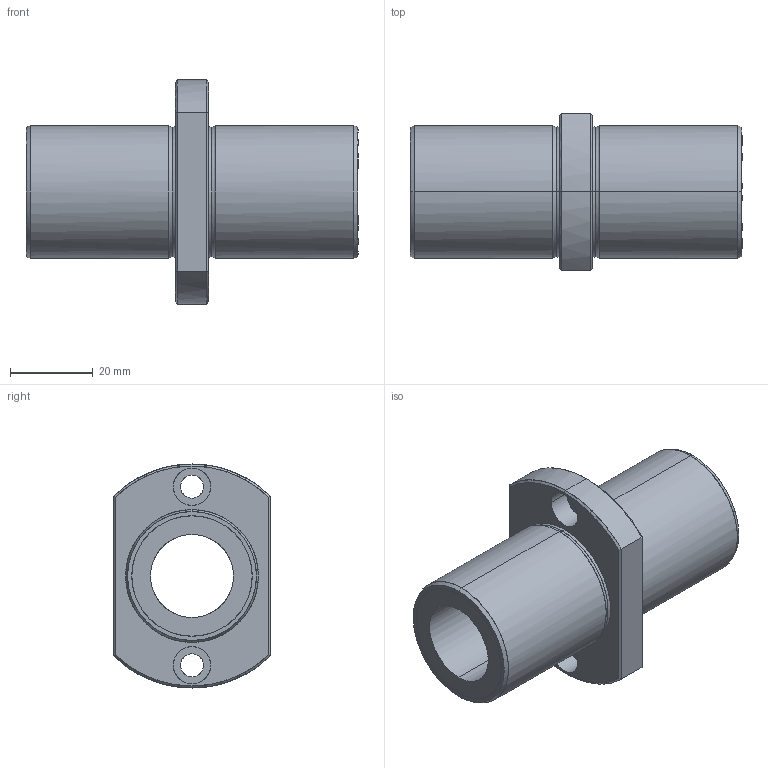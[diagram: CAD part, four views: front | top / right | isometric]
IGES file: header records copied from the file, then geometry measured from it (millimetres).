
Global section: file name: No Iges File Name specified; native system: AutoDesk Inventor R10; preprocessor: AutoDesk Inventor Iges Exporter R10; author: No Author specified; organization: No Organization specified; date: 20101211.155753; units: millimetre
Bounding box: 80 x 38 x 54 mm (x, y, z)
Surface area: 16854.6 mm2 (no closed solid volume)
Topology: 0 solids, 0 shells, 56 faces, 336 edges, 336 vertices
Faces by surface type: bspline 56
